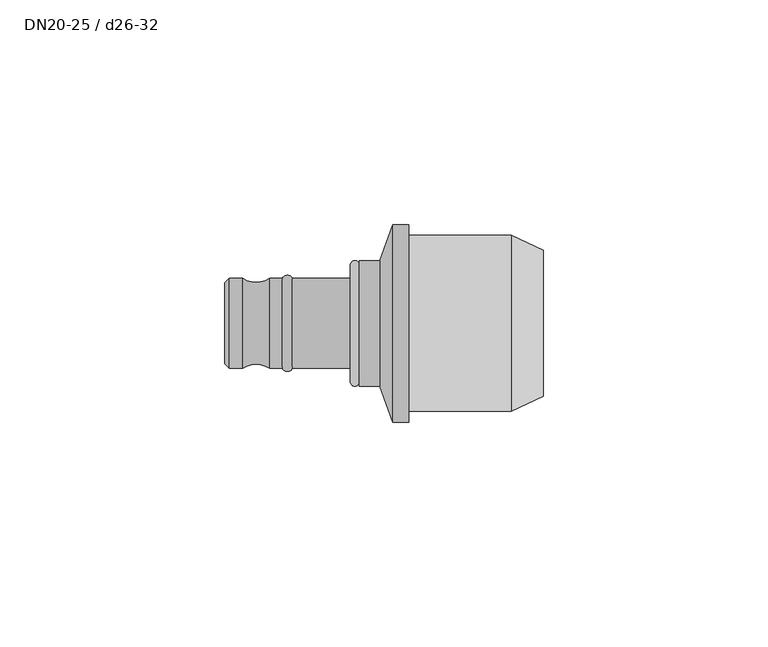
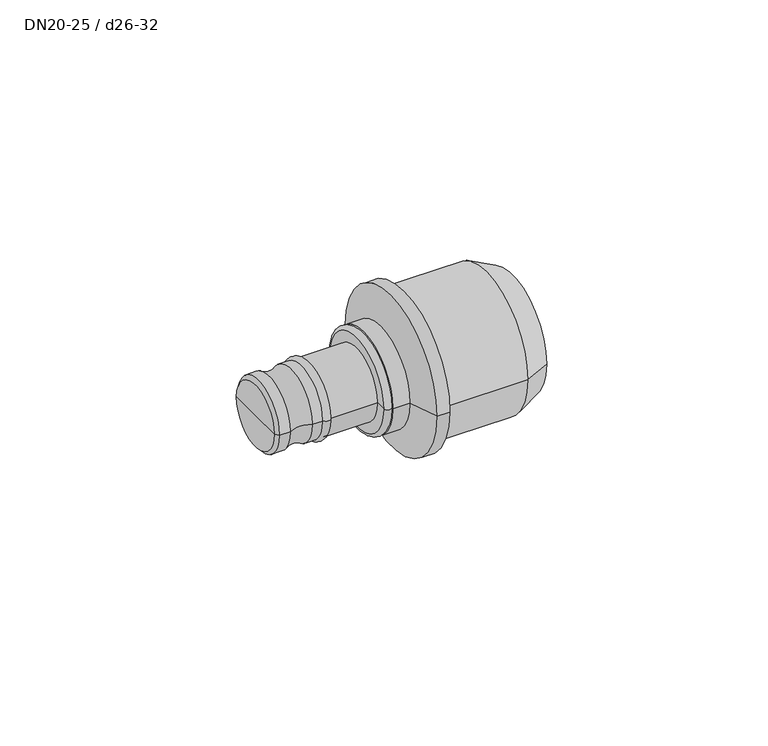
"""IFC4 building model written with IfcOpenShell, lengths in millimetres: pipe fitting geometry, NLRS_50_PIF_UN_Mepla adapter op verdeler met steekaansluiting_geb : DN20-25 / d26-32."""

from ifc_helpers import new_model, si_unit, point, frame, origin, place, context, project, spatial, polyline, circle_curve, ellipse_curve, trimmed, source, transform, mapped, element, save
from ifc_brep_helpers import plane_surface, cylinder_surface, revolved_surface, advanced_brep


def dn20_25_d26_32_22cb2c8b(model_context):
    return source(origin(), model_context, "Body", "AdvancedBrep", [
        advanced_brep(
        [(5.5, 19.6, 0.0), (5.5, -19.6, 0.0), (5.5, 0.0, 0.0), (28.3159018, 19.6, 0.0), (28.3159018, -19.6, 0.0), (35.5, 16.25, 0.0), (35.5, -16.25, 0.0), (7.5, 14.0, 0.0), (7.5, -14.0, 0.0), (35.5, -14.0, 0.0), (35.5, 14.0, 0.0), (7.5, 0.0, 0.0)],
        [
            (0, 1, circle_curve(frame((5.5, 0.0, 0.0), z_axis=(-1.0, 0.0, 0.0), x_axis=(0.0, -1.0000000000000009, 0.0)), 19.6)),
            (1, 2),
            (2, 0),
            (1, 0, circle_curve(frame((5.5, 0.0, 0.0), z_axis=(-1.0, 0.0, 0.0), x_axis=(0.0, -1.0000000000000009, 0.0)), 19.6)),
            (3, 4, circle_curve(frame((28.3159018, 0.0, 0.0), z_axis=(-1.0, 0.0, 0.0), x_axis=(0.0, -1.0000000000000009, 0.0)), 19.6)),
            (4, 1),
            (0, 3),
            (4, 3, circle_curve(frame((28.3159018, 0.0, 0.0), z_axis=(-1.0, 0.0, 0.0), x_axis=(0.0, -1.0000000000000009, 0.0)), 19.6)),
            (5, 6, circle_curve(frame((35.5, 0.0, 0.0), z_axis=(-1.0, 0.0, 0.0), x_axis=(0.0, -1.0000000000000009, 0.0)), 16.25)),
            (6, 4),
            (3, 5),
            (6, 5, circle_curve(frame((35.5, 0.0, 0.0), z_axis=(-1.0, 0.0, 0.0), x_axis=(0.0, -1.0000000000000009, 0.0)), 16.25)),
            (7, 8, circle_curve(frame((7.5, 0.0, 0.0), z_axis=(-1.0, 0.0, 0.0), x_axis=(0.0, -1.0000000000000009, 0.0)), 14.0)),
            (8, 9),
            (9, 10, circle_curve(frame((35.5, 0.0, 0.0), z_axis=(1.0, 0.0, 0.0), x_axis=(0.0, -1.0000000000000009, 0.0)), 14.0)),
            (10, 7),
            (8, 7, circle_curve(frame((7.5, 0.0, 0.0), z_axis=(-1.0, 0.0, 0.0), x_axis=(0.0, -1.0000000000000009, 0.0)), 14.0)),
            (10, 9, circle_curve(frame((35.5, 0.0, 0.0), z_axis=(1.0, 0.0, 0.0), x_axis=(0.0, -1.0000000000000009, 0.0)), 14.0)),
            (11, 8),
            (7, 11),
            (9, 6),
            (5, 10),
        ],
        [
            plane_surface(frame((5.5, 0.0, 0.0), z_axis=(-1.0, 0.0, 0.0), x_axis=(0.0, -1.0, 0.0))),
            cylinder_surface(frame((45.5, 0.0, 0.0), z_axis=(1.0000000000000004, 0.0, 0.0), x_axis=(0.0, -1.0000000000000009, 0.0)), 19.6),
            revolved_surface(polyline([(28.3159018, -19.6, 0.0), (35.5, -16.25, 0.0)]), (45.5, 0.0, 0.0), (1.0000000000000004, 0.0, 0.0)),
            revolved_surface(polyline([(35.49999999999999, -14.000000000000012, 0.0), (7.499999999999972, -14.000000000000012, 0.0)]), (45.5, 0.0, 0.0), (1.0000000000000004, 0.0, 0.0)),
            plane_surface(frame((7.5, 0.0, 0.0), z_axis=(1.0, 0.0, 0.0), x_axis=(0.0, -1.0, 0.0))),
            plane_surface(frame((35.5, 0.0, 0.0), z_axis=(1.0, 0.0, 0.0), x_axis=(0.0, -1.0, 0.0))),
        ],
        [
            (0, [[1, 2, 3]]),
            (0, [[4, -3, -2]]),
            (1, [[5, 6, -1, 7]]),
            (1, [[8, -7, -4, -6]]),
            (2, [[9, 10, -5, 11]]),
            (2, [[12, -11, -8, -10]]),
            (3, [[13, 14, 15, 16]]),
            (3, [[17, -16, 18, -14]]),
            (4, [[19, -13, 20]]),
            (4, [[-20, -17, -19]]),
            (5, [[-15, 21, -9, 22]]),
            (5, [[-18, -22, -12, -21]]),
        ],
    ),
        advanced_brep(
        [(-35.5, 0.0, 0.0), (-35.5, 9.0, 0.0), (-35.5, -9.0, 0.0), (-5.5, -13.0, 0.0), (-5.5, 13.0, 0.0), (-5.5, 0.0, 0.0), (-7.5, -13.0, 0.0), (-7.5, 13.0, 0.0), (-7.5, -10.0, 0.0), (-7.5, 10.0, 0.0), (-20.381966, -10.0, 0.0), (-20.381966, 10.0, 0.0), (-22.618034, -10.0, 0.0), (-22.618034, 10.0, 0.0), (-25.4414451, -10.0, 0.0), (-25.4414451, 10.0, 0.0), (-31.4892433, -10.0, 0.0), (-31.4892433, 10.0, 0.0), (-34.5, -10.0, 0.0), (-34.5, 10.0, 0.0)],
        [
            (0, 1),
            (1, 2, circle_curve(frame((-35.5, 0.0, 0.0), z_axis=(-1.0, 0.0, 0.0), x_axis=(0.0, 1.0, 0.0)), 9.0)),
            (2, 0),
            (2, 1, circle_curve(frame((-35.5, 0.0, 0.0), z_axis=(-1.0, 0.0, 0.0), x_axis=(0.0, 1.0, 0.0)), 9.0)),
            (3, 4, circle_curve(frame((-5.5, 0.0, 0.0), z_axis=(1.0, 0.0, 0.0), x_axis=(0.0, 1.0, 0.0)), 13.0)),
            (4, 5),
            (5, 3),
            (4, 3, circle_curve(frame((-5.5, 0.0, 0.0), z_axis=(1.0, 0.0, 0.0), x_axis=(0.0, 1.0, 0.0)), 13.0)),
            (6, 7, circle_curve(frame((-7.5, 0.0, 0.0), z_axis=(1.0, 0.0, 0.0), x_axis=(0.0, 1.0, 0.0)), 13.0)),
            (7, 4, circle_curve(frame((-6.5, 13.0, 0.0), z_axis=(0.0, 0.0, -1.0), x_axis=(1.0, 0.0, 0.0)), 1.0)),
            (3, 6, circle_curve(frame((-6.5, -13.0, 0.0), z_axis=(0.0, 0.0, -1.0), x_axis=(1.0, 0.0, 0.0)), 1.0)),
            (7, 6, circle_curve(frame((-7.5, 0.0, 0.0), z_axis=(1.0, 0.0, 0.0), x_axis=(0.0, 1.0, 0.0)), 13.0)),
            (8, 9, circle_curve(frame((-7.5, 0.0, 0.0), z_axis=(1.0, 0.0, 0.0), x_axis=(0.0, 1.0, 0.0)), 10.0)),
            (9, 7),
            (6, 8),
            (9, 8, circle_curve(frame((-7.5, 0.0, 0.0), z_axis=(1.0, 0.0, 0.0), x_axis=(0.0, 1.0, 0.0)), 10.0)),
            (10, 11, circle_curve(frame((-20.381966, 0.0, 0.0), z_axis=(1.0, 0.0, 0.0), x_axis=(0.0, 1.0, 0.0)), 10.0)),
            (11, 9),
            (8, 10),
            (11, 10, circle_curve(frame((-20.381966, 0.0, 0.0), z_axis=(1.0, 0.0, 0.0), x_axis=(0.0, 1.0, 0.0)), 10.0)),
            (12, 13, circle_curve(frame((-22.618034, 0.0, 0.0), z_axis=(1.0, 0.0, 0.0), x_axis=(0.0, 1.0, 0.0)), 10.0)),
            (13, 11, circle_curve(frame((-21.5, 9.4889209, 0.0), z_axis=(0.0, 0.0, -1.0), x_axis=(1.0, 0.0, 0.0)), 1.2293095)),
            (10, 12, circle_curve(frame((-21.5, -9.4889209, 0.0), z_axis=(0.0, 0.0, -1.0), x_axis=(1.0, 0.0, 0.0)), 1.2293095)),
            (13, 12, circle_curve(frame((-22.618034, 0.0, 0.0), z_axis=(1.0, 0.0, 0.0), x_axis=(0.0, 1.0, 0.0)), 10.0)),
            (14, 15, circle_curve(frame((-25.4414451, 0.0, 0.0), z_axis=(1.0, 0.0, 0.0), x_axis=(0.0, 1.0, 0.0)), 10.0)),
            (15, 13),
            (12, 14),
            (15, 14, circle_curve(frame((-25.4414451, 0.0, 0.0), z_axis=(1.0, 0.0, 0.0), x_axis=(0.0, 1.0, 0.0)), 10.0)),
            (16, 17, circle_curve(frame((-31.4892433, 0.0, 0.0), z_axis=(1.0, 0.0, 0.0), x_axis=(0.0, 1.0, 0.0)), 10.0)),
            (17, 15, circle_curve(frame((-28.4653442, 14.7319636, 0.0), z_axis=(0.0, 0.0, 1.0), x_axis=(1.0, 0.0, 0.0)), 5.6156429)),
            (14, 16, circle_curve(frame((-28.4653442, -14.7319636, 0.0), z_axis=(0.0, 0.0, 1.0), x_axis=(1.0, 0.0, 0.0)), 5.6156429)),
            (17, 16, circle_curve(frame((-31.4892433, 0.0, 0.0), z_axis=(1.0, 0.0, 0.0), x_axis=(0.0, 1.0, 0.0)), 10.0)),
            (18, 19, circle_curve(frame((-34.5, 0.0, 0.0), z_axis=(1.0, 0.0, 0.0), x_axis=(0.0, 1.0, 0.0)), 10.0)),
            (19, 17),
            (16, 18),
            (19, 18, circle_curve(frame((-34.5, 0.0, 0.0), z_axis=(1.0, 0.0, 0.0), x_axis=(0.0, 1.0, 0.0)), 10.0)),
            (1, 19),
            (18, 2),
        ],
        [
            plane_surface(frame((-35.5, 0.0, 0.0), z_axis=(-1.0, 0.0, 0.0), x_axis=(0.0, 1.0, 0.0))),
            plane_surface(frame((-5.5, 0.0, 0.0), z_axis=(1.0, 0.0, 0.0), x_axis=(0.0, 1.0, 0.0))),
            revolved_surface(trimmed(ellipse_curve(frame((-6.5, 13.0, 0.0), z_axis=(0.0, 0.0, 1.0), x_axis=(1.0, 0.0, 0.0)), 1.0, 1.0), [point((-5.5, 13.0, 0.0))], [point((-7.5, 13.0, 0.0))], True, "CARTESIAN"), (-43.545876, 0.0, 0.0), (-1.0, 0.0, 0.0)),
            plane_surface(frame((-7.5, 0.0, 0.0), z_axis=(-1.0, 0.0, 0.0), x_axis=(0.0, 1.0, 0.0))),
            cylinder_surface(frame((-43.545876, 0.0, 0.0), z_axis=(-1.0, 0.0, 0.0), x_axis=(0.0, 1.0, 0.0)), 10.0),
            revolved_surface(trimmed(ellipse_curve(frame((-21.5, 9.4889209, 0.0), z_axis=(0.0, 0.0, 1.0), x_axis=(1.0, 0.0, 0.0)), 1.2293095, 1.2293095), [point((-20.381966, 10.0, 0.0))], [point((-22.618034, 10.0, 0.0))], True, "CARTESIAN"), (-43.545876, 0.0, 0.0), (-1.0, 0.0, 0.0)),
            revolved_surface(trimmed(ellipse_curve(frame((-28.4653442, 14.7319636, 0.0), z_axis=(0.0, 0.0, -1.0), x_axis=(1.0, 0.0, 0.0)), 5.6156429, 5.6156429), [point((-25.4414451, 10.0, 0.0))], [point((-31.4892433, 10.0, 0.0))], True, "CARTESIAN"), (-43.545876, 0.0, 0.0), (-1.0, 0.0, 0.0)),
            revolved_surface(polyline([(-34.5, 10.0, 0.0), (-35.5, 9.0, 0.0)]), (-43.545876, 0.0, 0.0), (-1.0, 0.0, 0.0)),
        ],
        [
            (0, [[1, 2, 3]]),
            (0, [[-3, 4, -1]]),
            (1, [[5, 6, 7]]),
            (1, [[8, -7, -6]]),
            (2, [[9, 10, -5, 11]]),
            (2, [[12, -11, -8, -10]]),
            (3, [[13, 14, -9, 15]]),
            (3, [[16, -15, -12, -14]]),
            (4, [[17, 18, -13, 19]]),
            (4, [[20, -19, -16, -18]]),
            (5, [[21, 22, -17, 23]]),
            (5, [[24, -23, -20, -22]]),
            (4, [[25, 26, -21, 27]]),
            (4, [[28, -27, -24, -26]]),
            (6, [[29, 30, -25, 31]]),
            (6, [[32, -31, -28, -30]]),
            (4, [[33, 34, -29, 35]]),
            (4, [[36, -35, -32, -34]]),
            (7, [[-2, 37, -33, 38]]),
            (7, [[-4, -38, -36, -37]]),
        ],
    ),
        advanced_brep(
        [(-5.5, -14.0, 0.0), (-5.5, 14.0, 0.0), (-0.9117619, 14.0, 0.0), (-0.9117619, -14.0, 0.0), (-5.5, 0.0, 0.0), (5.5, -22.0, 0.0), (5.5, 22.0, 0.0), (5.5, 0.0, 0.0), (2.0, -22.0, 0.0), (2.0, 22.0, 0.0)],
        [
            (0, 1, circle_curve(frame((-5.5, 0.0, 0.0), z_axis=(1.0, 0.0, 0.0), x_axis=(0.0, 1.0, 0.0)), 14.0)),
            (1, 2),
            (2, 3, circle_curve(frame((-0.9117619, 0.0, 0.0), z_axis=(-1.0, 0.0, 0.0), x_axis=(0.0, 1.0, 0.0)), 14.0)),
            (3, 0),
            (1, 0, circle_curve(frame((-5.5, 0.0, 0.0), z_axis=(1.0, 0.0, 0.0), x_axis=(0.0, 1.0, 0.0)), 14.0)),
            (3, 2, circle_curve(frame((-0.9117619, 0.0, 0.0), z_axis=(-1.0, 0.0, 0.0), x_axis=(0.0, 1.0, 0.0)), 14.0)),
            (4, 1),
            (0, 4),
            (5, 6, circle_curve(frame((5.5, 0.0, 0.0), z_axis=(1.0, 0.0, 0.0), x_axis=(0.0, 1.0, 0.0)), 22.0)),
            (6, 7),
            (7, 5),
            (6, 5, circle_curve(frame((5.5, 0.0, 0.0), z_axis=(1.0, 0.0, 0.0), x_axis=(0.0, 1.0, 0.0)), 22.0)),
            (8, 9, circle_curve(frame((2.0, 0.0, 0.0), z_axis=(1.0, 0.0, 0.0), x_axis=(0.0, 1.0, 0.0)), 22.0)),
            (9, 6),
            (5, 8),
            (9, 8, circle_curve(frame((2.0, 0.0, 0.0), z_axis=(1.0, 0.0, 0.0), x_axis=(0.0, 1.0, 0.0)), 22.0)),
            (2, 9),
            (8, 3),
        ],
        [
            cylinder_surface(frame((56.3914776, 0.0, 0.0), z_axis=(-1.0, 0.0, 0.0), x_axis=(0.0, 1.0, 0.0)), 14.0),
            plane_surface(frame((-5.5, 0.0, 0.0), z_axis=(-1.0, 0.0, 0.0), x_axis=(0.0, 1.0, 0.0))),
            plane_surface(frame((5.5, 0.0, 0.0), z_axis=(1.0, 0.0, 0.0), x_axis=(0.0, 1.0, 0.0))),
            cylinder_surface(frame((56.3914776, 0.0, 0.0), z_axis=(-1.0, 0.0, 0.0), x_axis=(0.0, 1.0, 0.0)), 22.0),
            revolved_surface(polyline([(2.0, 22.0, 0.0), (-0.9117619, 14.0, 0.0)]), (56.3914776, 0.0, 0.0), (-1.0, 0.0, 0.0)),
        ],
        [
            (0, [[1, 2, 3, 4]]),
            (0, [[5, -4, 6, -2]]),
            (1, [[7, -1, 8]]),
            (1, [[-8, -5, -7]]),
            (2, [[9, 10, 11]]),
            (2, [[12, -11, -10]]),
            (3, [[13, 14, -9, 15]]),
            (3, [[16, -15, -12, -14]]),
            (4, [[-3, 17, -13, 18]]),
            (4, [[-6, -18, -16, -17]]),
        ],
    ),
    ])


if __name__ == "__main__":
    model = new_model("IFC4")
    model_context = context("Model", 3, world=origin())
    ifc_project = project(units=[si_unit("LENGTHUNIT", "METRE", prefix="MILLI")], contexts=[model_context])
    site = spatial("IfcSite", under=ifc_project)
    building = spatial("IfcBuilding", under=site)
    placement = place(None, origin())
    dn20_25_d26_32_shape = dn20_25_d26_32_22cb2c8b(model_context)
    element("IfcPipeFitting", 1, ObjectType="NLRS_50_PIF_UN_Mepla adapter op verdeler met steekaansluiting_geb : DN20-25 / d26-32", at=placement, inside=building, context=model_context, shape_type="MappedRepresentation", body=[
        mapped(dn20_25_d26_32_shape, transform((0.0, 0.0, 0.0), x_axis=(1.0, 0.0, 0.0), y_axis=(0.0, 1.0, 0.0), z_axis=(0.0, 0.0, 1.0))),
    ])
    save(model, "model.ifc")
